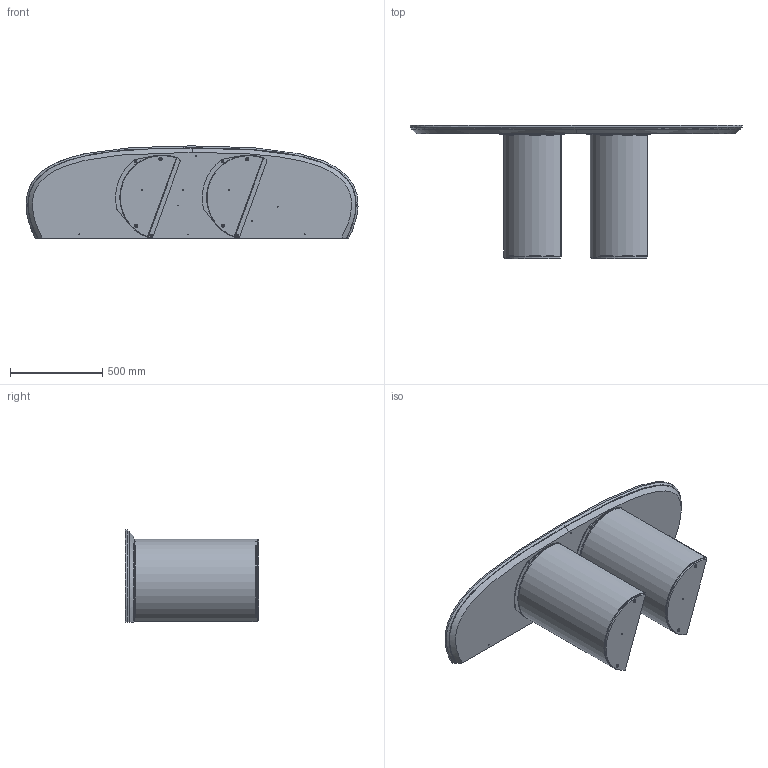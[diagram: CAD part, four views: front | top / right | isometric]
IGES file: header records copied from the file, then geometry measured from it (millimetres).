
Start section: SolidWorks IGES file using analytic representation for surfaces
Global section: file name: Y:\eforma\TECNICO\SOLIDWORKS\E-FORMA\3-CONSOLE\PLAI CONSOLE\02 parts\PL61G_Plai Console_180x50x72h_Glass Shaped.IGS; native system: SolidWorks 2022; preprocessor: SolidWorks 2022; author: eforma.tech; date: 240806.115757; units: millimetre
Bounding box: 1799.73 x 723 x 500 mm (x, y, z)
Volume: 41258832.9 mm3; surface area: 7602459 mm2
Topology: 18 solids, 18 shells, 398 faces, 912 edges, 526 vertices
Faces by surface type: revolution 244, plane 146, bspline 8
